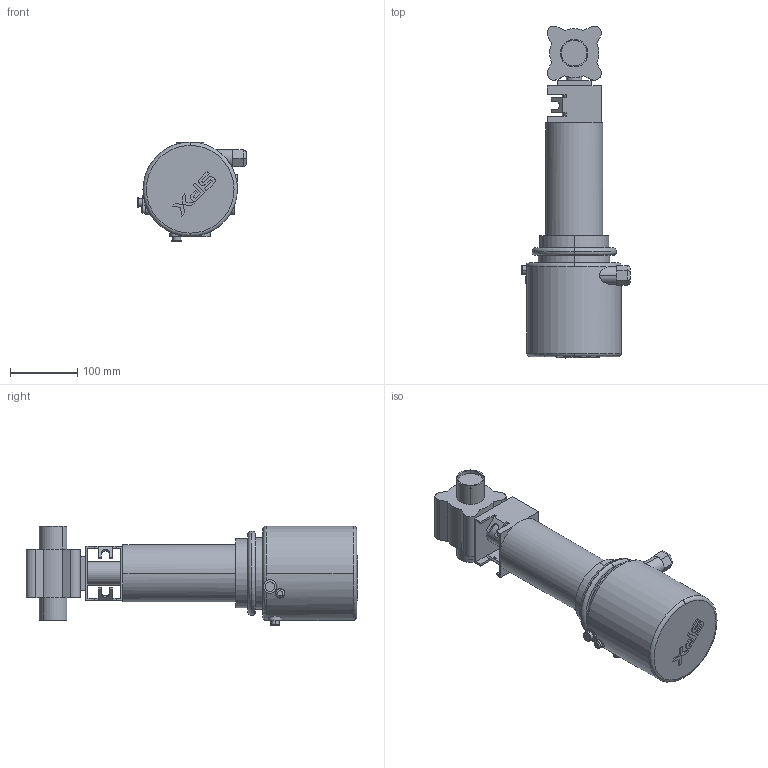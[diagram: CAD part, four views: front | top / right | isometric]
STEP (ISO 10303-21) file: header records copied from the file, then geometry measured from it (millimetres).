
FILE_DESCRIPTION(('Creo Elements/Direct Modeling STEP Export'),'2;1');
FILE_NAME('BLV1-DN40-NC-12S-CU4.stp','2019-05-09T14:12:18',(''),(''),'Creo Elements/Direct Modeling STEP processor for AP214 (Solid Model)','Creo Elements/Direct Modeling 19.0F 14-Feb-2017 (C) Parametric Technology GmbH','');
FILE_SCHEMA(('AUTOMOTIVE_DESIGN { 1 0 10303 214 1 1 1 1 }'));
Length unit declared in the file: millimetre
Products named in the file (2): BLV1-DN40-NC-12S-CU4
Assembly tree (1 placements, depth 2):
  BLV1-DN40-NC-12S-CU4
    BLV1-DN40-NC-12S-CU4
Bounding box: 161.4 x 492.24 x 148 mm (x, y, z)
Volume: 4053229 mm3; surface area: 250350.9 mm2
Topology: 1 solids, 1 shells, 227 faces, 578 edges, 377 vertices
Faces by surface type: plane 104, cylinder 80, extrusion 33, torus 10
Entity records: 10220 total; most frequent: CARTESIAN_POINT 5061, ORIENTED_EDGE 1158, DIRECTION 904, EDGE_CURVE 579, VERTEX_POINT 377, VECTOR 312, AXIS2_PLACEMENT_3D 296, LINE 279
